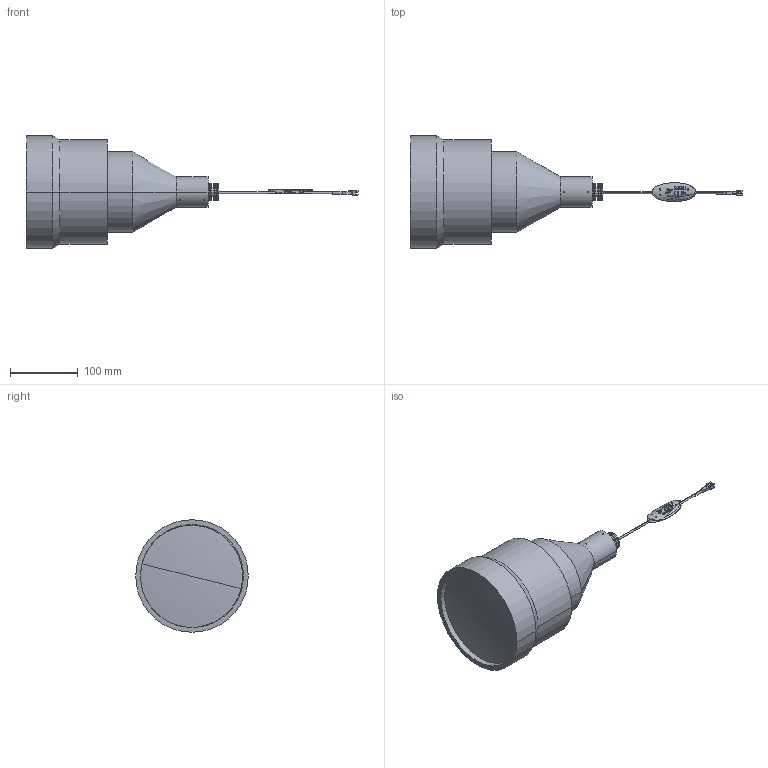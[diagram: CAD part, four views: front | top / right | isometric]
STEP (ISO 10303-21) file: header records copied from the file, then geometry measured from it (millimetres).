
FILE_DESCRIPTION(('STEP AP214'),'1');
FILE_NAME('VCL-150-2P_DRAWING_3D.step','2024-03-04T03:00:18',(' '),(' '),'Spatial InterOp 3D',' ',' ');
FILE_SCHEMA(('AUTOMOTIVE_DESIGN { 1 0 10303 214 1 1 1 1 }'));
Length unit declared in the file: millimetre
Products named in the file (5): TLN150; LEN1; CABLE 2P; CABEL TAG (VS)
Assembly tree (4 placements, depth 2):
  (unnamed)
    TLN150
    LEN1
    CABLE 2P
    CABEL TAG (VS)
Bounding box: 489.6 x 166 x 166 mm (x, y, z)
Volume: 1267715 mm3; surface area: 260551.5 mm2
Topology: 28 solids, 29 shells, 331 faces, 1040 edges, 802 vertices
Faces by surface type: cylinder 180, plane 124, cone 14, bspline 10, torus 3
Entity records: 16078 total; most frequent: CARTESIAN_POINT 4753, ORIENTED_EDGE 2048, DIRECTION 1514, EDGE_CURVE 1024, VERTEX_POINT 802, AXIS2_PLACEMENT_3D 525, LINE 464, VECTOR 464
